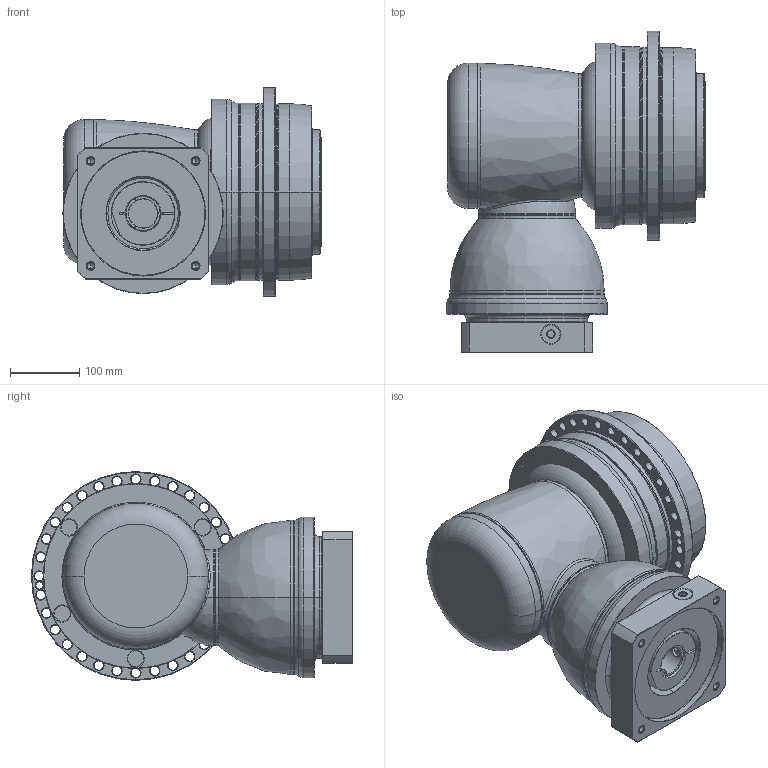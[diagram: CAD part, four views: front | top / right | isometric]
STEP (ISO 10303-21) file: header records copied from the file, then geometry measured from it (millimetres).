
FILE_DESCRIPTION((''),'2;1');
FILE_NAME('APK255_2ST_42-P0409A00201_ASM','2018-06-20T',('D00080'),(''),'PRO/ENGINEER BY PARAMETRIC TECHNOLOGY CORPORATION, 2008170','PRO/ENGINEER BY PARAMETRIC TECHNOLOGY CORPORATION, 2008170','');
FILE_SCHEMA(('CONFIG_CONTROL_DESIGN'));
Length unit declared in the file: millimetre
Products named in the file (13): P1008600002; P1802710001; P0278701003; P0359701103; P1211700001; P1315600001; P1007601001; P1318610301; P0503A00012; P0912603001; P0409A00201; 21711422019; APK255_2ST_42-P0409A00201_ASM
Assembly tree (12 placements, depth 2):
  APK255_2ST_42-P0409A00201_ASM
    P1008600002
    P1802710001
    P0278701003
    P0359701103
    P1211700001
    P1315600001
    P1007601001
    P1318610301
    P0503A00012
    P0912603001
    P0409A00201
    21711422019
Bounding box: 373.5 x 464.5 x 302 mm (x, y, z)
Volume: 21494386.1 mm3; surface area: 1421496.6 mm2
Topology: 13 solids, 36 shells, 864 faces, 2020 edges, 1215 vertices
Faces by surface type: cylinder 341, cone 268, plane 137, torus 85, bspline 31, sphere 2
Entity records: 31234 total; most frequent: CARTESIAN_POINT 10684, DIRECTION 4743, ORIENTED_EDGE 3870, AXIS2_PLACEMENT_3D 2034, EDGE_CURVE 1982, VERTEX_POINT 1215, CIRCLE 1164, EDGE_LOOP 1019
